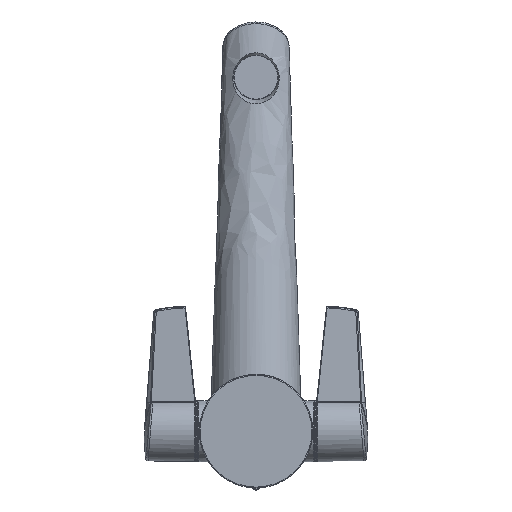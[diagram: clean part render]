
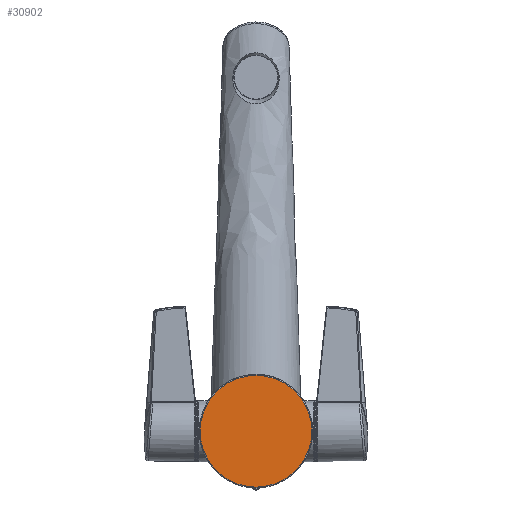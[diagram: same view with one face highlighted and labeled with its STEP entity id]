
A CAD part, front view. The second image highlights one B-rep face of the part: STEP entity #30902.
In plain terms, the highlighted planar face has unit normal (0, -1, 0).
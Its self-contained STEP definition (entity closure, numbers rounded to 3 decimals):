
#309 = CARTESIAN_POINT ( 'NONE',  ( 0., 0., 0. ) ) ;
#2762 = DIRECTION ( 'NONE',  ( -1., 0., 0. ) ) ;
#8945 = VERTEX_POINT ( 'NONE', #20903 ) ;
#13213 = DIRECTION ( 'NONE',  ( -1., 0., 0. ) ) ;
#13656 = FACE_OUTER_BOUND ( 'NONE', #24309, .T. ) ;
#17434 = DIRECTION ( 'NONE',  ( 0., -1., 0. ) ) ;
#18194 = EDGE_CURVE ( 'NONE', #8945, #8945, #26944, .T. ) ;
#20134 = AXIS2_PLACEMENT_3D ( 'NONE', #309, #17434, #2762 ) ;
#20903 = CARTESIAN_POINT ( 'NONE',  ( -30.488, 0., 0. ) ) ;
#22738 = CARTESIAN_POINT ( 'NONE',  ( 0., 0., 0. ) ) ;
#24309 = EDGE_LOOP ( 'NONE', ( #26859 ) ) ;
#25088 = PLANE ( 'NONE',  #30657 ) ;
#26859 = ORIENTED_EDGE ( 'NONE', *, *, #18194, .T. ) ;
#26944 = CIRCLE ( 'NONE', #20134, 30.488 ) ;
#27418 = DIRECTION ( 'NONE',  ( 0., -1., 0. ) ) ;
#30657 = AXIS2_PLACEMENT_3D ( 'NONE', #22738, #27418, #13213 ) ;
#30902 = ADVANCED_FACE ( 'NONE', ( #13656 ), #25088, .T. ) ;
